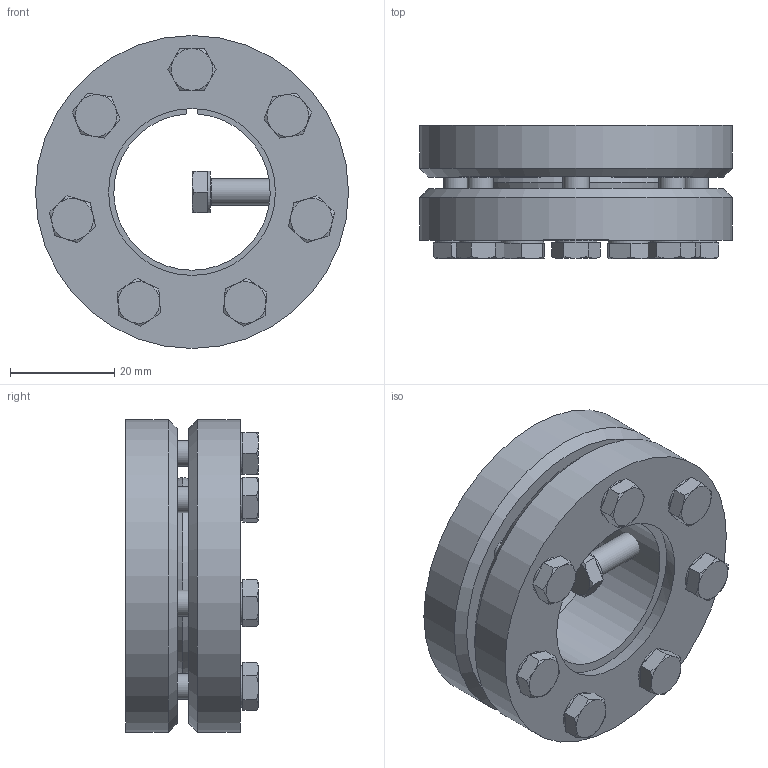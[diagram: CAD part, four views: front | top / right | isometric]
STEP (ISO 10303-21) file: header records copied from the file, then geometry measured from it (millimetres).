
FILE_DESCRIPTION( ( 'Unknown' ), '1' );
FILE_NAME( 'C:/Dokumente und Einstellungen/Sven/Desktop/homepage/cad - homepage/KBS19/KBS 19 - 30 x 60.stp', 'Unknown', ( 'Unknown' ), ( 'Unknown' ), 'XStep 1.0', 'Unknown', ' ' );
FILE_SCHEMA( ( 'automotive_design' ) );
Length unit declared in the file: millimetre
Products named in the file (3): Assem1; KBS 19 - 30 x 60; ISO 4017 - M5 x 16-N
Bounding box: 60 x 25.5 x 60 mm (x, y, z)
Volume: 81403.1 mm3; surface area: 34288.4 mm2
Topology: 10 solids, 10 shells, 274 faces, 640 edges, 394 vertices
Faces by surface type: plane 148, cone 68, cylinder 50, torus 8
Full cylindrical faces by diameter (mm): 5 x36, 8 x8, 60 x4
Entity records: 2028 total; most frequent: CARTESIAN_POINT 336, DIRECTION 312, ORIENTED_EDGE 244, AXIS2_PLACEMENT_3D 135, EDGE_CURVE 122, EDGE_LOOP 119, VERTEX_POINT 89, FACE_OUTER_BOUND 81
